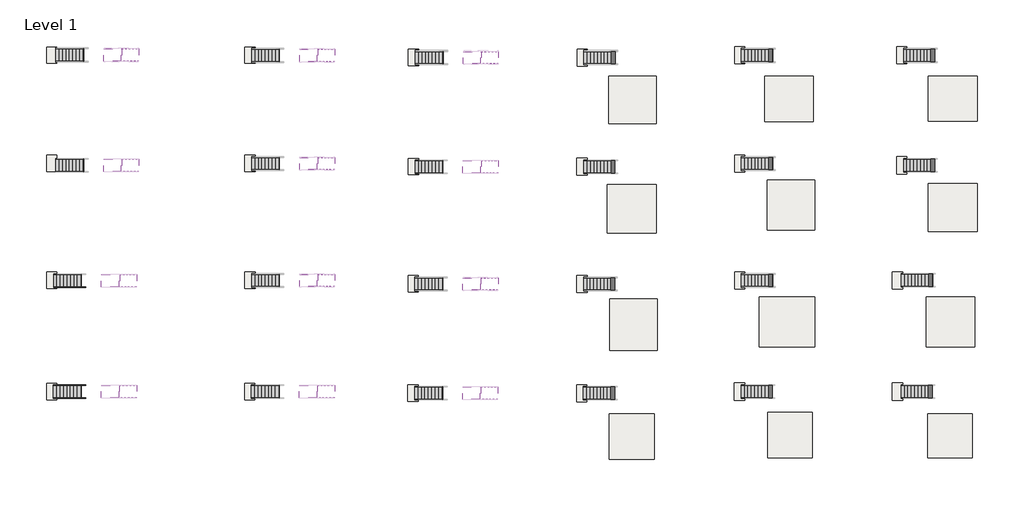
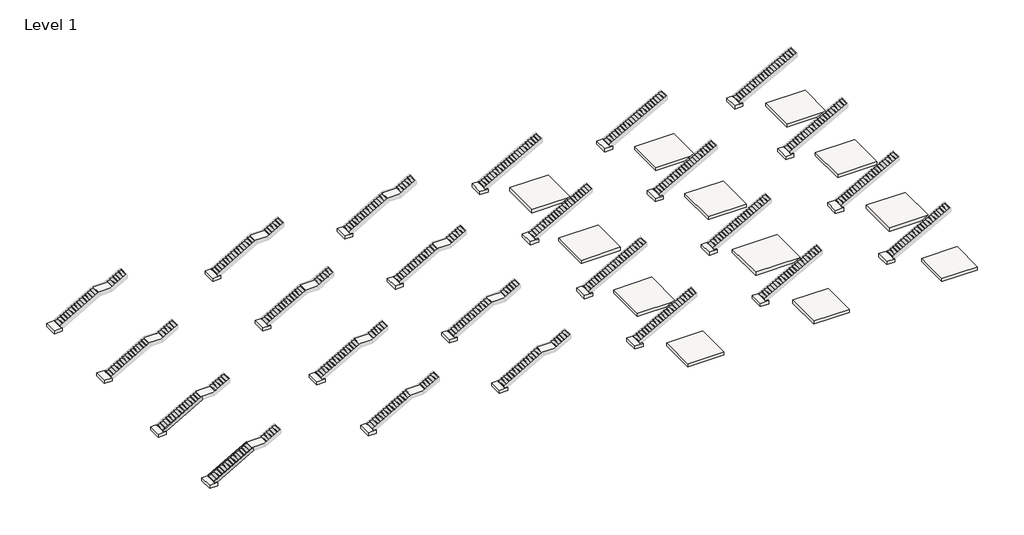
# One storey, part 1 of 2: 48 slabs, 36 stair flights, 3 members.
"""IFC4 building model written with IfcOpenShell, lengths in millimetres."""

from ifc_helpers import new_model, si_unit, frame, origin, place, context, project, spatial, polyline, outline, extrude, transform, mapped, element, save
from components import non_monolithic_landing_8f2b5169, non_monolithic_landing_047bd246, non_monolithic_landing_fefffbc4, non_monolithic_landing_64d1daa8, non_monolithic_landing_f9fca083, non_monolithic_landing_5d0e261f, non_monolithic_landing_c73b08fc, non_monolithic_landing_522a30ce, non_monolithic_landing_33fc1541, non_monolithic_landing_17ffbc2a, non_monolithic_landing_2f4b5426, non_monolithic_landing_0ca8307c, stair_flight_258a6cbc, stair_flight_0b0cad5c, stair_flight_0de24507, stair_flight_69a5bf32, stair_flight_a9538401, stair_flight_ac2a29c4, stair_flight_52e825a6, stair_flight_eed7713f, stair_flight_299978d5, stair_flight_8cc66eea, stair_flight_9f840bb6, stair_flight_50f921ca, stair_flight_f67c9514, stair_flight_5a4c5ca5, stair_flight_5c327054, stair_flight_eac4b940, stair_flight_e8b61742, stair_flight_4ada8186, stair_flight_5bed9c42, stair_flight_4736928c, stair_flight_f9da42aa, stair_flight_280036b4, stair_flight_be7faa67, stair_flight_3d462d87, stair_flight_6c6811b1, stair_flight_e9081b82, stair_flight_ee7a4110, stair_flight_c5fed0c8, stair_flight_9d38373e, stair_flight_499292b3, stair_flight_59090b68, stair_flight_a734e51d, stair_flight_6c13c02f, stair_flight_3877abb4, stair_flight_e5405b16, stair_flight_474d9439

model = new_model("IFC4")

# Units and contexts
model_context = context("Model", 3, world=origin())
ifc_project = project(units=[si_unit("LENGTHUNIT", "METRE", prefix="MILLI")], contexts=[model_context])

# Site, building, storey
site = spatial("IfcSite", under=ifc_project)
building = spatial("IfcBuilding", under=site)
storey = spatial("IfcBuildingStorey", under=building, Name="Level 1", Elevation=0.0)

# Members
placement = place(None, origin())
element("IfcMember", 1, at=placement, inside=storey, context=model_context, shape_type="SweptSolid", body=[
    extrude(outline(polyline([(179.7202068, -50859.3385422), (0.0, -50859.3385422), (0.0, -50559.5048637), (1923.1428571, -47194.0048637), (2227.9428571, -47274.9489042), (179.7202068, -50859.3385422)])), frame((0.0, 7552.722839, 0.0), z_axis=(0.0, 1.0, 0.0), x_axis=(0.0, 0.0, 1.0)), (0.0, 0.0, 1.0), 50.8),
])
element("IfcMember", 2, at=placement, inside=storey, context=model_context, shape_type="SweptSolid", body=[
    extrude(outline(polyline([(179.7202068, -50859.3385422), (0.0, -50859.3385422), (0.0, -50559.5048637), (1923.1428571, -47194.0048637), (2227.9428571, -47274.9489042), (179.7202068, -50859.3385422)])), frame((0.0, 6587.522839, 0.0), z_axis=(0.0, 1.0, 0.0), x_axis=(0.0, 0.0, 1.0)), (0.0, 0.0, 1.0), 50.8),
])
element("IfcMember", 3, at=placement, inside=storey, context=model_context, shape_type="SweptSolid", body=[
    extrude(outline(polyline([(179.7202068, -50845.3645607), (0.0, -50845.3645607), (0.0, -50545.5308822), (1923.1428571, -47180.0308822), (2227.9428571, -47260.9749226), (179.7202068, -50845.3645607)])), frame((0.0, 14829.4177722, 0.0), z_axis=(0.0, 1.0, 0.0), x_axis=(0.0, 0.0, 1.0)), (0.0, 0.0, 1.0), 50.8),
])

# Slabs
element("IfcSlab", 4, ObjectType="Generic - 12\"", at=placement, inside=storey, context=model_context, shape_type="SweptSolid", body=[
    extrude(outline(polyline([(-11221.1488677, 6331.3905722), (-11983.1488677, 6331.3905722), (-11983.1488677, 7602.3049722), (-11221.1488677, 7602.3049722), (-11221.1488677, 6331.3905722)])), frame((0.0, 0.0, -307.594), z_axis=(0.0, 0.0, 1.0), x_axis=(1.0, 0.0, 0.0)), (0.0, 0.0, 1.0), 307.594),
])
element("IfcSlab", 5, ObjectType="Generic - 12\"", at=placement, inside=storey, context=model_context, shape_type="SweptSolid", body=[
    extrude(outline(polyline([(-11207.1748862, 14460.2555053), (-11969.1748862, 14460.2555053), (-11969.1748862, 15731.1699053), (-11207.1748862, 15731.1699053), (-11207.1748862, 14460.2555053)])), frame((0.0, 0.0, -307.594), z_axis=(0.0, 0.0, 1.0), x_axis=(1.0, 0.0, 0.0)), (0.0, 0.0, 1.0), 307.594),
])
element("IfcSlab", 6, ObjectType="Generic - 12\"", at=placement, inside=storey, context=model_context, shape_type="SweptSolid", body=[
    extrude(outline(polyline([(-11193.2009046, 23184.7504385), (-11955.2009046, 23184.7504385), (-11955.2009046, 24455.6648385), (-11193.2009046, 24455.6648385), (-11193.2009046, 23184.7504385)])), frame((0.0, 0.0, -307.594), z_axis=(0.0, 0.0, 1.0), x_axis=(1.0, 0.0, 0.0)), (0.0, 0.0, 1.0), 307.594),
])
element("IfcSlab", 7, ObjectType="Generic - 12\"", at=placement, inside=storey, context=model_context, shape_type="SweptSolid", body=[
    extrude(outline(polyline([(-11179.2269231, 31299.6453717), (-11941.2269231, 31299.6453717), (-11941.2269231, 32570.5597717), (-11179.2269231, 32570.5597717), (-11179.2269231, 31299.6453717)])), frame((0.0, 0.0, -307.594), z_axis=(0.0, 0.0, 1.0), x_axis=(1.0, 0.0, 0.0)), (0.0, 0.0, 1.0), 307.594),
])
element("IfcSlab", 8, ObjectType="Generic - 12\"", at=placement, inside=storey, context=model_context, shape_type="SweptSolid", body=[
    extrude(outline(polyline([(513.6511323, 31491.3605722), (-248.3488677, 31491.3605722), (-248.3488677, 32762.2749722), (513.6511323, 32762.2749722), (513.6511323, 31491.3605722)])), frame((0.0, 0.0, -307.594), z_axis=(0.0, 0.0, 1.0), x_axis=(1.0, 0.0, 0.0)), (0.0, 0.0, 1.0), 307.594),
])
element("IfcSlab", 9, ObjectType="Generic - 12\"", at=placement, inside=storey, context=model_context, shape_type="SweptSolid", body=[
    extrude(outline(polyline([(12564.3038678, 31491.3605722), (11802.3038678, 31491.3605722), (11802.3038678, 32762.2749722), (12564.3038678, 32762.2749722), (12564.3038678, 31491.3605722)])), frame((0.0, 0.0, -307.594), z_axis=(0.0, 0.0, 1.0), x_axis=(1.0, 0.0, 0.0)), (0.0, 0.0, 1.0), 307.594),
])
element("IfcSlab", 10, ObjectType="Generic - 12\"", at=placement, inside=storey, context=model_context, shape_type="SweptSolid", body=[
    extrude(outline(polyline([(513.6511323, 23414.1605722), (-248.3488677, 23414.1605722), (-248.3488677, 24685.0749722), (513.6511323, 24685.0749722), (513.6511323, 23414.1605722)])), frame((0.0, 0.0, -307.594), z_axis=(0.0, 0.0, 1.0), x_axis=(1.0, 0.0, 0.0)), (0.0, 0.0, 1.0), 307.594),
])
element("IfcSlab", 11, ObjectType="Generic - 12\"", at=placement, inside=storey, context=model_context, shape_type="SweptSolid", body=[
    extrude(outline(polyline([(12564.3038678, 23286.3504385), (11802.3038678, 23286.3504385), (11802.3038678, 24557.2648385), (12564.3038678, 24557.2648385), (12564.3038678, 23286.3504385)])), frame((0.0, 0.0, -307.594), z_axis=(0.0, 0.0, 1.0), x_axis=(1.0, 0.0, 0.0)), (0.0, 0.0, 1.0), 307.594),
])
element("IfcSlab", 12, ObjectType="Generic - 12\"", at=placement, inside=storey, context=model_context, shape_type="SweptSolid", body=[
    extrude(outline(polyline([(513.6511323, 14727.3605722), (-248.3488677, 14727.3605722), (-248.3488677, 15998.2749722), (513.6511323, 15998.2749722), (513.6511323, 14727.3605722)])), frame((0.0, 0.0, -307.594), z_axis=(0.0, 0.0, 1.0), x_axis=(1.0, 0.0, 0.0)), (0.0, 0.0, 1.0), 307.594),
])
element("IfcSlab", 13, ObjectType="Generic - 12\"", at=placement, inside=storey, context=model_context, shape_type="SweptSolid", body=[
    extrude(outline(polyline([(12248.4511323, 14727.3605722), (11486.4511323, 14727.3605722), (11486.4511323, 15998.2749722), (12248.4511323, 15998.2749722), (12248.4511323, 14727.3605722)])), frame((0.0, 0.0, -307.594), z_axis=(0.0, 0.0, 1.0), x_axis=(1.0, 0.0, 0.0)), (0.0, 0.0, 1.0), 307.594),
])
element("IfcSlab", 14, ObjectType="Generic - 12\"", at=placement, inside=storey, context=model_context, shape_type="SweptSolid", body=[
    extrude(outline(polyline([(12234.4771507, 6460.065639), (11472.4771507, 6460.065639), (11472.4771507, 7730.980039), (12234.4771507, 7730.980039), (12234.4771507, 6460.065639)])), frame((0.0, 0.0, -307.594), z_axis=(0.0, 0.0, 1.0), x_axis=(1.0, 0.0, 0.0)), (0.0, 0.0, 1.0), 307.594),
])
element("IfcSlab", 15, ObjectType="Generic - 12\"", at=placement, inside=storey, context=model_context, shape_type="SweptSolid", body=[
    extrude(outline(polyline([(499.6771507, 6460.065639), (-262.3228493, 6460.065639), (-262.3228493, 7730.980039), (499.6771507, 7730.980039), (499.6771507, 6460.065639)])), frame((0.0, 0.0, -307.594), z_axis=(0.0, 0.0, 1.0), x_axis=(1.0, 0.0, 0.0)), (0.0, 0.0, 1.0), 307.594),
])
element("IfcSlab", 16, ObjectType="Generic - 12\"", at=placement, inside=storey, context=model_context, shape_type="SweptSolid", body=[
    extrude(outline(polyline([(17416.0630827, 2167.922839), (14120.2114578, 2167.922839), (14120.2114578, 5444.522839), (17416.0630827, 5444.522839), (17416.0630827, 2167.922839)])), frame((0.0, 0.0, -307.594), z_axis=(0.0, 0.0, 1.0), x_axis=(1.0, 0.0, 0.0)), (0.0, 0.0, 1.0), 307.594),
])
element("IfcSlab", 17, ObjectType="Generic - 12\"", at=placement, inside=storey, context=model_context, shape_type="SweptSolid", body=[
    extrude(outline(polyline([(5518.5443327, 2167.922839), (2216.5443327, 2167.922839), (2216.5443327, 5546.122839), (5518.5443327, 5546.122839), (5518.5443327, 2167.922839)])), frame((0.0, 0.0, -307.594), z_axis=(0.0, 0.0, 1.0), x_axis=(1.0, 0.0, 0.0)), (0.0, 0.0, 1.0), 307.594),
])
element("IfcSlab", 18, ObjectType="Generic - 12\"", at=placement, inside=storey, context=model_context, shape_type="SweptSolid", body=[
    extrude(outline(polyline([(-6204.6629358, 2053.2177722), (-9557.4629358, 2053.2177722), (-9557.4629358, 5431.4177722), (-6204.6629358, 5431.4177722), (-6204.6629358, 2053.2177722)])), frame((0.0, 0.0, -307.594), z_axis=(0.0, 0.0, 1.0), x_axis=(1.0, 0.0, 0.0)), (0.0, 0.0, 1.0), 307.594),
])
element("IfcSlab", 19, ObjectType="Generic - 12\"", at=placement, inside=storey, context=model_context, shape_type="SweptSolid", body=[
    extrude(outline(polyline([(-5994.0405791, 10168.1127053), (-9524.6405791, 10168.1127053), (-9524.6405791, 14003.5127053), (-5994.0405791, 14003.5127053), (-5994.0405791, 10168.1127053)])), frame((0.0, 0.0, -307.594), z_axis=(0.0, 0.0, 1.0), x_axis=(1.0, 0.0, 0.0)), (0.0, 0.0, 1.0), 307.594),
])
element("IfcSlab", 20, ObjectType="Generic - 12\"", at=placement, inside=storey, context=model_context, shape_type="SweptSolid", body=[
    extrude(outline(polyline([(-6062.6165976, 18892.6076385), (-9713.8665976, 18892.6076385), (-9713.8665976, 22499.4076385), (-6062.6165976, 22499.4076385), (-6062.6165976, 18892.6076385)])), frame((0.0, 0.0, -307.594), z_axis=(0.0, 0.0, 1.0), x_axis=(1.0, 0.0, 0.0)), (0.0, 0.0, 1.0), 307.594),
])
element("IfcSlab", 21, ObjectType="Generic - 12\"", at=placement, inside=storey, context=model_context, shape_type="SweptSolid", body=[
    extrude(outline(polyline([(5726.7854393, 19122.0177722), (2196.1854393, 19122.0177722), (2196.1854393, 22830.4177722), (5726.7854393, 22830.4177722), (5726.7854393, 19122.0177722)])), frame((0.0, 0.0, -307.594), z_axis=(0.0, 0.0, 1.0), x_axis=(1.0, 0.0, 0.0)), (0.0, 0.0, 1.0), 307.594),
])
element("IfcSlab", 22, ObjectType="Generic - 12\"", at=placement, inside=storey, context=model_context, shape_type="SweptSolid", body=[
    extrude(outline(polyline([(17802.8381748, 18994.2076385), (14145.2381748, 18994.2076385), (14145.2381748, 22575.6076385), (17802.8381748, 22575.6076385), (17802.8381748, 18994.2076385)])), frame((0.0, 0.0, -307.594), z_axis=(0.0, 0.0, 1.0), x_axis=(1.0, 0.0, 0.0)), (0.0, 0.0, 1.0), 307.594),
])
element("IfcSlab", 23, ObjectType="Generic - 12\"", at=placement, inside=storey, context=model_context, shape_type="SweptSolid", body=[
    extrude(outline(polyline([(5726.7854393, 10435.2177722), (1586.5854393, 10435.2177722), (1586.5854393, 14143.8193971), (5726.7854393, 14143.8193971), (5726.7854393, 10435.2177722)])), frame((0.0, 0.0, -307.594), z_axis=(0.0, 0.0, 1.0), x_axis=(1.0, 0.0, 0.0)), (0.0, 0.0, 1.0), 307.594),
])
element("IfcSlab", 24, ObjectType="Generic - 12\"", at=placement, inside=storey, context=model_context, shape_type="SweptSolid", body=[
    extrude(outline(polyline([(17613.9854393, 10409.8177722), (13981.7854393, 10409.8177722), (13981.7854393, 14118.2177722), (17613.9854393, 14118.2177722), (17613.9854393, 10409.8177722)])), frame((0.0, 0.0, -307.594), z_axis=(0.0, 0.0, 1.0), x_axis=(1.0, 0.0, 0.0)), (0.0, 0.0, 1.0), 307.594),
])
element("IfcSlab", 25, ObjectType="Generic - 12\"", at=placement, inside=storey, context=model_context, shape_type="SweptSolid", body=[
    extrude(outline(polyline([(-6048.642616, 27007.5025717), (-9598.292616, 27007.5025717), (-9598.292616, 30563.5025717), (-6048.642616, 30563.5025717), (-6048.642616, 27007.5025717)])), frame((0.0, 0.0, -307.594), z_axis=(0.0, 0.0, 1.0), x_axis=(1.0, 0.0, 0.0)), (0.0, 0.0, 1.0), 307.594),
])
element("IfcSlab", 26, ObjectType="Generic - 12\"", at=placement, inside=storey, context=model_context, shape_type="SweptSolid", body=[
    extrude(outline(polyline([(5602.9604393, 27173.8177722), (1992.9854393, 27173.8177722), (1992.9854393, 30563.5025717), (5602.9604393, 30563.5025717), (5602.9604393, 27173.8177722)])), frame((0.0, 0.0, -307.594), z_axis=(0.0, 0.0, 1.0), x_axis=(1.0, 0.0, 0.0)), (0.0, 0.0, 1.0), 307.594),
])
element("IfcSlab", 27, ObjectType="Generic - 12\"", at=placement, inside=storey, context=model_context, shape_type="SweptSolid", body=[
    extrude(outline(polyline([(17802.8381748, 27199.2177722), (14145.2381748, 27199.2177722), (14145.2381748, 30563.5025717), (17802.8381748, 30563.5025717), (17802.8381748, 27199.2177722)])), frame((0.0, 0.0, -307.594), z_axis=(0.0, 0.0, 1.0), x_axis=(1.0, 0.0, 0.0)), (0.0, 0.0, 1.0), 307.594),
])
element("IfcSlab", 28, ObjectType="Generic - 7 3/4\"", at=placement, inside=storey, context=model_context, shape_type="SweptSolid", body=[
    extrude(outline(polyline([(-23755.0013638, 6383.1049722), (-24517.0013638, 6383.1049722), (-24517.0013638, 7602.3049722), (-23755.0013638, 7602.3049722), (-23755.0013638, 6383.1049722)])), frame((0.0, 0.0, -296.7736), z_axis=(0.0, 0.0, 1.0), x_axis=(1.0, 0.0, 0.0)), (0.0, 0.0, 1.0), 296.7736),
])
element("IfcSlab", 29, ObjectType="Generic - 7 3/4\"", at=placement, inside=storey, context=model_context, shape_type="SweptSolid", body=[
    extrude(outline(polyline([(-23741.0273822, 14497.9999053), (-24503.0273822, 14497.9999053), (-24503.0273822, 15717.1999053), (-23741.0273822, 15717.1999053), (-23741.0273822, 14497.9999053)])), frame((0.0, 0.0, -296.7736), z_axis=(0.0, 0.0, 1.0), x_axis=(1.0, 0.0, 0.0)), (0.0, 0.0, 1.0), 296.7736),
])
element("IfcSlab", 30, ObjectType="Generic - 7 3/4\"", at=placement, inside=storey, context=model_context, shape_type="SweptSolid", body=[
    extrude(outline(polyline([(-23727.0534007, 23222.4948385), (-24489.0534007, 23222.4948385), (-24489.0534007, 24441.6948385), (-23727.0534007, 24441.6948385), (-23727.0534007, 23222.4948385)])), frame((0.0, 0.0, -296.7736), z_axis=(0.0, 0.0, 1.0), x_axis=(1.0, 0.0, 0.0)), (0.0, 0.0, 1.0), 296.7736),
])
element("IfcSlab", 31, ObjectType="Generic - 7 3/4\"", at=placement, inside=storey, context=model_context, shape_type="SweptSolid", body=[
    extrude(outline(polyline([(-23713.0794192, 31337.3897717), (-24475.0794192, 31337.3897717), (-24475.0794192, 32556.5897717), (-23713.0794192, 32556.5897717), (-23713.0794192, 31337.3897717)])), frame((0.0, 0.0, -296.7736), z_axis=(0.0, 0.0, 1.0), x_axis=(1.0, 0.0, 0.0)), (0.0, 0.0, 1.0), 296.7736),
])
element("IfcSlab", 32, ObjectType="Generic - 7 3/4\"", at=placement, inside=storey, context=model_context, shape_type="SweptSolid", body=[
    extrude(outline(polyline([(-35885.6561362, 6497.810039), (-36647.6561362, 6497.810039), (-36647.6561362, 7717.010039), (-35885.6561362, 7717.010039), (-35885.6561362, 6497.810039)])), frame((0.0, 0.0, -296.7736), z_axis=(0.0, 0.0, 1.0), x_axis=(1.0, 0.0, 0.0)), (0.0, 0.0, 1.0), 296.7736),
])
element("IfcSlab", 33, ObjectType="Generic - 7 3/4\"", at=placement, inside=storey, context=model_context, shape_type="SweptSolid", body=[
    extrude(outline(polyline([(-35871.6821546, 14765.1049722), (-36633.6821546, 14765.1049722), (-36633.6821546, 15984.3049722), (-35871.6821546, 15984.3049722), (-35871.6821546, 14765.1049722)])), frame((0.0, 0.0, -296.7736), z_axis=(0.0, 0.0, 1.0), x_axis=(1.0, 0.0, 0.0)), (0.0, 0.0, 1.0), 296.7736),
])
element("IfcSlab", 34, ObjectType="Generic - 7 3/4\"", at=placement, inside=storey, context=model_context, shape_type="SweptSolid", body=[
    extrude(outline(polyline([(-35871.6821546, 23451.9049722), (-36633.6821546, 23451.9049722), (-36633.6821546, 24671.1049722), (-35871.6821546, 24671.1049722), (-35871.6821546, 23451.9049722)])), frame((0.0, 0.0, -296.7736), z_axis=(0.0, 0.0, 1.0), x_axis=(1.0, 0.0, 0.0)), (0.0, 0.0, 1.0), 296.7736),
])
element("IfcSlab", 35, ObjectType="Generic - 7 3/4\"", at=placement, inside=storey, context=model_context, shape_type="SweptSolid", body=[
    extrude(outline(polyline([(-35871.6821546, 31503.7049722), (-36633.6821546, 31503.7049722), (-36633.6821546, 32722.9049722), (-35871.6821546, 32722.9049722), (-35871.6821546, 31503.7049722)])), frame((0.0, 0.0, -296.7736), z_axis=(0.0, 0.0, 1.0), x_axis=(1.0, 0.0, 0.0)), (0.0, 0.0, 1.0), 296.7736),
])
element("IfcSlab", 36, ObjectType="Generic - 7 3/4\"", at=placement, inside=storey, context=model_context, shape_type="SweptSolid", body=[
    extrude(outline(polyline([(-50605.3493268, 6497.810039), (-51367.3493268, 6497.810039), (-51367.3493268, 7717.010039), (-50605.3493268, 7717.010039), (-50605.3493268, 6497.810039)])), frame((0.0, 0.0, -296.7736), z_axis=(0.0, 0.0, 1.0), x_axis=(1.0, 0.0, 0.0)), (0.0, 0.0, 1.0), 296.7736),
])
element("IfcSlab", 37, ObjectType="Generic - 7 3/4\"", at=placement, inside=storey, context=model_context, shape_type="SweptSolid", body=[
    extrude(outline(polyline([(-50591.3753453, 14765.1049722), (-51353.3753453, 14765.1049722), (-51353.3753453, 15984.3049722), (-50591.3753453, 15984.3049722), (-50591.3753453, 14765.1049722)])), frame((0.0, 0.0, -296.7736), z_axis=(0.0, 0.0, 1.0), x_axis=(1.0, 0.0, 0.0)), (0.0, 0.0, 1.0), 296.7736),
])
element("IfcSlab", 38, ObjectType="Generic - 7 3/4\"", at=placement, inside=storey, context=model_context, shape_type="SweptSolid", body=[
    extrude(outline(polyline([(-50591.3753453, 23451.9049722), (-51353.3753453, 23451.9049722), (-51353.3753453, 24671.1049722), (-50591.3753453, 24671.1049722), (-50591.3753453, 23451.9049722)])), frame((0.0, 0.0, -296.7736), z_axis=(0.0, 0.0, 1.0), x_axis=(1.0, 0.0, 0.0)), (0.0, 0.0, 1.0), 296.7736),
])
element("IfcSlab", 39, ObjectType="Generic - 7 3/4\"", at=placement, inside=storey, context=model_context, shape_type="SweptSolid", body=[
    extrude(outline(polyline([(-50591.3753453, 31503.7049722), (-51353.3753453, 31503.7049722), (-51353.3753453, 32722.9049722), (-50591.3753453, 32722.9049722), (-50591.3753453, 31503.7049722)])), frame((0.0, 0.0, -296.7736), z_axis=(0.0, 0.0, 1.0), x_axis=(1.0, 0.0, 0.0)), (0.0, 0.0, 1.0), 296.7736),
])
non_monolithic_landing_shape = non_monolithic_landing_8f2b5169(model_context)
element("IfcSlab", 40, ObjectType="Non-Monolithic Landing", at=placement, inside=storey, context=model_context, shape_type="MappedRepresentation", body=[
    mapped(non_monolithic_landing_shape, transform((0.0, 0.0, 0.0), x_axis=(1.0, 0.0, 0.0), y_axis=(0.0, 1.0, 0.0), z_axis=(0.0, 0.0, 1.0))),
])
non_monolithic_landing_2_shape = non_monolithic_landing_047bd246(model_context)
element("IfcSlab", 41, ObjectType="Non-Monolithic Landing", at=placement, inside=storey, context=model_context, shape_type="MappedRepresentation", body=[
    mapped(non_monolithic_landing_2_shape, transform((0.0, 0.0, 0.0), x_axis=(1.0, 0.0, 0.0), y_axis=(0.0, 1.0, 0.0), z_axis=(0.0, 0.0, 1.0))),
])
non_monolithic_landing_3_shape = non_monolithic_landing_fefffbc4(model_context)
element("IfcSlab", 42, ObjectType="Non-Monolithic Landing", at=placement, inside=storey, context=model_context, shape_type="MappedRepresentation", body=[
    mapped(non_monolithic_landing_3_shape, transform((0.0, 0.0, 0.0), x_axis=(1.0, 0.0, 0.0), y_axis=(0.0, 1.0, 0.0), z_axis=(0.0, 0.0, 1.0))),
])
non_monolithic_landing_4_shape = non_monolithic_landing_64d1daa8(model_context)
element("IfcSlab", 43, ObjectType="Non-Monolithic Landing", at=placement, inside=storey, context=model_context, shape_type="MappedRepresentation", body=[
    mapped(non_monolithic_landing_4_shape, transform((0.0, 0.0, 0.0), x_axis=(1.0, 0.0, 0.0), y_axis=(0.0, 1.0, 0.0), z_axis=(0.0, 0.0, 1.0))),
])
non_monolithic_landing_5_shape = non_monolithic_landing_f9fca083(model_context)
element("IfcSlab", 44, ObjectType="Non-Monolithic Landing", at=placement, inside=storey, context=model_context, shape_type="MappedRepresentation", body=[
    mapped(non_monolithic_landing_5_shape, transform((0.0, 0.0, 0.0), x_axis=(1.0, 0.0, 0.0), y_axis=(0.0, 1.0, 0.0), z_axis=(0.0, 0.0, 1.0))),
])
non_monolithic_landing_6_shape = non_monolithic_landing_5d0e261f(model_context)
element("IfcSlab", 45, ObjectType="Non-Monolithic Landing", at=placement, inside=storey, context=model_context, shape_type="MappedRepresentation", body=[
    mapped(non_monolithic_landing_6_shape, transform((0.0, 0.0, 0.0), x_axis=(1.0, 0.0, 0.0), y_axis=(0.0, 1.0, 0.0), z_axis=(0.0, 0.0, 1.0))),
])
non_monolithic_landing_7_shape = non_monolithic_landing_c73b08fc(model_context)
element("IfcSlab", 46, ObjectType="Non-Monolithic Landing", at=placement, inside=storey, context=model_context, shape_type="MappedRepresentation", body=[
    mapped(non_monolithic_landing_7_shape, transform((0.0, 0.0, 0.0), x_axis=(1.0, 0.0, 0.0), y_axis=(0.0, 1.0, 0.0), z_axis=(0.0, 0.0, 1.0))),
])
non_monolithic_landing_8_shape = non_monolithic_landing_522a30ce(model_context)
element("IfcSlab", 47, ObjectType="Non-Monolithic Landing", at=placement, inside=storey, context=model_context, shape_type="MappedRepresentation", body=[
    mapped(non_monolithic_landing_8_shape, transform((0.0, 0.0, 0.0), x_axis=(1.0, 0.0, 0.0), y_axis=(0.0, 1.0, 0.0), z_axis=(0.0, 0.0, 1.0))),
])
non_monolithic_landing_9_shape = non_monolithic_landing_33fc1541(model_context)
element("IfcSlab", 48, ObjectType="Non-Monolithic Landing", at=placement, inside=storey, context=model_context, shape_type="MappedRepresentation", body=[
    mapped(non_monolithic_landing_9_shape, transform((0.0, 0.0, 0.0), x_axis=(1.0, 0.0, 0.0), y_axis=(0.0, 1.0, 0.0), z_axis=(0.0, 0.0, 1.0))),
])
non_monolithic_landing_10_shape = non_monolithic_landing_17ffbc2a(model_context)
element("IfcSlab", 49, ObjectType="Non-Monolithic Landing", at=placement, inside=storey, context=model_context, shape_type="MappedRepresentation", body=[
    mapped(non_monolithic_landing_10_shape, transform((0.0, 0.0, 0.0), x_axis=(1.0, 0.0, 0.0), y_axis=(0.0, 1.0, 0.0), z_axis=(0.0, 0.0, 1.0))),
])
non_monolithic_landing_11_shape = non_monolithic_landing_2f4b5426(model_context)
element("IfcSlab", 50, ObjectType="Non-Monolithic Landing", at=placement, inside=storey, context=model_context, shape_type="MappedRepresentation", body=[
    mapped(non_monolithic_landing_11_shape, transform((0.0, 0.0, 0.0), x_axis=(1.0, 0.0, 0.0), y_axis=(0.0, 1.0, 0.0), z_axis=(0.0, 0.0, 1.0))),
])
non_monolithic_landing_12_shape = non_monolithic_landing_0ca8307c(model_context)
element("IfcSlab", 51, ObjectType="Non-Monolithic Landing", at=placement, inside=storey, context=model_context, shape_type="MappedRepresentation", body=[
    mapped(non_monolithic_landing_12_shape, transform((0.0, 0.0, 0.0), x_axis=(1.0, 0.0, 0.0), y_axis=(0.0, 1.0, 0.0), z_axis=(0.0, 0.0, 1.0))),
])

# Stair flights
stair_flight_shape = stair_flight_258a6cbc(model_context)
element("IfcStairFlight", 52, ObjectType="Wood Steps with 2\" Tread 1\" Nosing 1/4\" Riser", at=placement, inside=storey, context=model_context, shape_type="MappedRepresentation", body=[
    mapped(stair_flight_shape, transform((0.0, 0.0, 0.0), x_axis=(1.0, 0.0, 0.0), y_axis=(0.0, 1.0, 0.0), z_axis=(0.0, 0.0, 1.0))),
])
stair_flight_2_shape = stair_flight_0b0cad5c(model_context)
element("IfcStairFlight", 53, ObjectType="Wood Steps with 2\" Tread 1\" Nosing 1/4\" Riser", at=placement, inside=storey, context=model_context, shape_type="MappedRepresentation", body=[
    mapped(stair_flight_2_shape, transform((0.0, 0.0, 0.0), x_axis=(1.0, 0.0, 0.0), y_axis=(0.0, 1.0, 0.0), z_axis=(0.0, 0.0, 1.0))),
])
stair_flight_3_shape = stair_flight_0de24507(model_context)
element("IfcStairFlight", 54, ObjectType="Wood Steps with 2\" Tread 1\" Nosing 1/4\" Riser", at=placement, inside=storey, context=model_context, shape_type="MappedRepresentation", body=[
    mapped(stair_flight_3_shape, transform((0.0, 0.0, 0.0), x_axis=(1.0, 0.0, 0.0), y_axis=(0.0, 1.0, 0.0), z_axis=(0.0, 0.0, 1.0))),
])
stair_flight_4_shape = stair_flight_69a5bf32(model_context)
element("IfcStairFlight", 55, ObjectType="Wood Steps with 2\" Tread 1\" Nosing 1/4\" Riser", at=placement, inside=storey, context=model_context, shape_type="MappedRepresentation", body=[
    mapped(stair_flight_4_shape, transform((0.0, 0.0, 0.0), x_axis=(1.0, 0.0, 0.0), y_axis=(0.0, 1.0, 0.0), z_axis=(0.0, 0.0, 1.0))),
])
stair_flight_5_shape = stair_flight_a9538401(model_context)
element("IfcStairFlight", 56, ObjectType="Wood Steps with 2\" Tread 1\" Nosing 1/4\" Riser", at=placement, inside=storey, context=model_context, shape_type="MappedRepresentation", body=[
    mapped(stair_flight_5_shape, transform((0.0, 0.0, 0.0), x_axis=(1.0, 0.0, 0.0), y_axis=(0.0, 1.0, 0.0), z_axis=(0.0, 0.0, 1.0))),
])
stair_flight_6_shape = stair_flight_ac2a29c4(model_context)
element("IfcStairFlight", 57, ObjectType="Wood Steps with 2\" Tread 1\" Nosing 1/4\" Riser", at=placement, inside=storey, context=model_context, shape_type="MappedRepresentation", body=[
    mapped(stair_flight_6_shape, transform((0.0, 0.0, 0.0), x_axis=(1.0, 0.0, 0.0), y_axis=(0.0, 1.0, 0.0), z_axis=(0.0, 0.0, 1.0))),
])
stair_flight_7_shape = stair_flight_52e825a6(model_context)
element("IfcStairFlight", 58, ObjectType="Wood Steps with 2\" Tread 1\" Nosing 1/4\" Riser", at=placement, inside=storey, context=model_context, shape_type="MappedRepresentation", body=[
    mapped(stair_flight_7_shape, transform((0.0, 0.0, 0.0), x_axis=(1.0, 0.0, 0.0), y_axis=(0.0, 1.0, 0.0), z_axis=(0.0, 0.0, 1.0))),
])
stair_flight_8_shape = stair_flight_eed7713f(model_context)
element("IfcStairFlight", 59, ObjectType="Wood Steps with 2\" Tread 1\" Nosing 1/4\" Riser", at=placement, inside=storey, context=model_context, shape_type="MappedRepresentation", body=[
    mapped(stair_flight_8_shape, transform((0.0, 0.0, 0.0), x_axis=(1.0, 0.0, 0.0), y_axis=(0.0, 1.0, 0.0), z_axis=(0.0, 0.0, 1.0))),
])
stair_flight_9_shape = stair_flight_299978d5(model_context)
element("IfcStairFlight", 60, ObjectType="Wood Steps with 2\" Tread 1\" Nosing 1/4\" Riser", at=placement, inside=storey, context=model_context, shape_type="MappedRepresentation", body=[
    mapped(stair_flight_9_shape, transform((0.0, 0.0, 0.0), x_axis=(1.0, 0.0, 0.0), y_axis=(0.0, 1.0, 0.0), z_axis=(0.0, 0.0, 1.0))),
])
stair_flight_10_shape = stair_flight_8cc66eea(model_context)
element("IfcStairFlight", 61, ObjectType="Wood Steps with 2\" Tread 1\" Nosing 1/4\" Riser", at=placement, inside=storey, context=model_context, shape_type="MappedRepresentation", body=[
    mapped(stair_flight_10_shape, transform((0.0, 0.0, 0.0), x_axis=(1.0, 0.0, 0.0), y_axis=(0.0, 1.0, 0.0), z_axis=(0.0, 0.0, 1.0))),
])
stair_flight_11_shape = stair_flight_9f840bb6(model_context)
element("IfcStairFlight", 62, ObjectType="Wood Steps with 2\" Tread 1\" Nosing 1/4\" Riser", at=placement, inside=storey, context=model_context, shape_type="MappedRepresentation", body=[
    mapped(stair_flight_11_shape, transform((0.0, 0.0, 0.0), x_axis=(1.0, 0.0, 0.0), y_axis=(0.0, 1.0, 0.0), z_axis=(0.0, 0.0, 1.0))),
])
stair_flight_12_shape = stair_flight_50f921ca(model_context)
element("IfcStairFlight", 63, ObjectType="Wood Steps with 2\" Tread 1\" Nosing 1/4\" Riser", at=placement, inside=storey, context=model_context, shape_type="MappedRepresentation", body=[
    mapped(stair_flight_12_shape, transform((0.0, 0.0, 0.0), x_axis=(1.0, 0.0, 0.0), y_axis=(0.0, 1.0, 0.0), z_axis=(0.0, 0.0, 1.0))),
])
stair_flight_13_shape = stair_flight_f67c9514(model_context)
element("IfcStairFlight", 64, ObjectType="Wood Steps with 2\" Tread 1\" Nosing 1/4\" Riser", at=placement, inside=storey, context=model_context, shape_type="MappedRepresentation", body=[
    mapped(stair_flight_13_shape, transform((0.0, 0.0, 0.0), x_axis=(1.0, 0.0, 0.0), y_axis=(0.0, 1.0, 0.0), z_axis=(0.0, 0.0, 1.0))),
])
stair_flight_14_shape = stair_flight_5a4c5ca5(model_context)
element("IfcStairFlight", 65, ObjectType="Wood Steps with 2\" Tread 1\" Nosing 1/4\" Riser", at=placement, inside=storey, context=model_context, shape_type="MappedRepresentation", body=[
    mapped(stair_flight_14_shape, transform((0.0, 0.0, 0.0), x_axis=(1.0, 0.0, 0.0), y_axis=(0.0, 1.0, 0.0), z_axis=(0.0, 0.0, 1.0))),
])
stair_flight_15_shape = stair_flight_5c327054(model_context)
element("IfcStairFlight", 66, ObjectType="Wood Steps with 2\" Tread 1\" Nosing 1/4\" Riser", at=placement, inside=storey, context=model_context, shape_type="MappedRepresentation", body=[
    mapped(stair_flight_15_shape, transform((0.0, 0.0, 0.0), x_axis=(1.0, 0.0, 0.0), y_axis=(0.0, 1.0, 0.0), z_axis=(0.0, 0.0, 1.0))),
])
stair_flight_16_shape = stair_flight_eac4b940(model_context)
element("IfcStairFlight", 67, ObjectType="Wood Steps with 2\" Tread 1\" Nosing 1/4\" Riser", at=placement, inside=storey, context=model_context, shape_type="MappedRepresentation", body=[
    mapped(stair_flight_16_shape, transform((0.0, 0.0, 0.0), x_axis=(1.0, 0.0, 0.0), y_axis=(0.0, 1.0, 0.0), z_axis=(0.0, 0.0, 1.0))),
])
stair_flight_17_shape = stair_flight_e8b61742(model_context)
element("IfcStairFlight", 68, ObjectType="Wood Steps with 2\" Tread 1\" Nosing 1/4\" Riser", at=placement, inside=storey, context=model_context, shape_type="MappedRepresentation", body=[
    mapped(stair_flight_17_shape, transform((0.0, 0.0, 0.0), x_axis=(1.0, 0.0, 0.0), y_axis=(0.0, 1.0, 0.0), z_axis=(0.0, 0.0, 1.0))),
])
stair_flight_18_shape = stair_flight_4ada8186(model_context)
element("IfcStairFlight", 69, ObjectType="Wood Steps with 2\" Tread 1\" Nosing 1/4\" Riser", at=placement, inside=storey, context=model_context, shape_type="MappedRepresentation", body=[
    mapped(stair_flight_18_shape, transform((0.0, 0.0, 0.0), x_axis=(1.0, 0.0, 0.0), y_axis=(0.0, 1.0, 0.0), z_axis=(0.0, 0.0, 1.0))),
])
stair_flight_19_shape = stair_flight_5bed9c42(model_context)
element("IfcStairFlight", 70, ObjectType="Wood Steps with 2\" Tread 1\" Nosing 1/4\" Riser", at=placement, inside=storey, context=model_context, shape_type="MappedRepresentation", body=[
    mapped(stair_flight_19_shape, transform((0.0, 0.0, 0.0), x_axis=(1.0, 0.0, 0.0), y_axis=(0.0, 1.0, 0.0), z_axis=(0.0, 0.0, 1.0))),
])
stair_flight_20_shape = stair_flight_4736928c(model_context)
element("IfcStairFlight", 71, ObjectType="Wood Steps with 2\" Tread 1\" Nosing 1/4\" Riser", at=placement, inside=storey, context=model_context, shape_type="MappedRepresentation", body=[
    mapped(stair_flight_20_shape, transform((0.0, 0.0, 0.0), x_axis=(1.0, 0.0, 0.0), y_axis=(0.0, 1.0, 0.0), z_axis=(0.0, 0.0, 1.0))),
])
stair_flight_21_shape = stair_flight_f9da42aa(model_context)
element("IfcStairFlight", 72, ObjectType="Wood Steps with 2\" Tread 1\" Nosing 1/4\" Riser", at=placement, inside=storey, context=model_context, shape_type="MappedRepresentation", body=[
    mapped(stair_flight_21_shape, transform((0.0, 0.0, 0.0), x_axis=(1.0, 0.0, 0.0), y_axis=(0.0, 1.0, 0.0), z_axis=(0.0, 0.0, 1.0))),
])
stair_flight_22_shape = stair_flight_280036b4(model_context)
element("IfcStairFlight", 73, ObjectType="Wood Steps with 2\" Tread 1\" Nosing 1/4\" Riser", at=placement, inside=storey, context=model_context, shape_type="MappedRepresentation", body=[
    mapped(stair_flight_22_shape, transform((0.0, 0.0, 0.0), x_axis=(1.0, 0.0, 0.0), y_axis=(0.0, 1.0, 0.0), z_axis=(0.0, 0.0, 1.0))),
])
stair_flight_23_shape = stair_flight_be7faa67(model_context)
element("IfcStairFlight", 74, ObjectType="Wood Steps with 2\" Tread 1\" Nosing 1/4\" Riser", at=placement, inside=storey, context=model_context, shape_type="MappedRepresentation", body=[
    mapped(stair_flight_23_shape, transform((0.0, 0.0, 0.0), x_axis=(1.0, 0.0, 0.0), y_axis=(0.0, 1.0, 0.0), z_axis=(0.0, 0.0, 1.0))),
])
stair_flight_24_shape = stair_flight_3d462d87(model_context)
element("IfcStairFlight", 75, ObjectType="Wood Steps with 2\" Tread 1\" Nosing 1/4\" Riser", at=placement, inside=storey, context=model_context, shape_type="MappedRepresentation", body=[
    mapped(stair_flight_24_shape, transform((0.0, 0.0, 0.0), x_axis=(1.0, 0.0, 0.0), y_axis=(0.0, 1.0, 0.0), z_axis=(0.0, 0.0, 1.0))),
])
stair_flight_25_shape = stair_flight_6c6811b1(model_context)
element("IfcStairFlight", 76, ObjectType="Wood Steps with 2\" Tread 1\" Nosing 1/4\" Riser", at=placement, inside=storey, context=model_context, shape_type="MappedRepresentation", body=[
    mapped(stair_flight_25_shape, transform((0.0, 0.0, 0.0), x_axis=(1.0, 0.0, 0.0), y_axis=(0.0, 1.0, 0.0), z_axis=(0.0, 0.0, 1.0))),
])
stair_flight_26_shape = stair_flight_e9081b82(model_context)
element("IfcStairFlight", 77, ObjectType="Wood Steps with 2\" Tread 1\" Nosing 1/4\" Riser", at=placement, inside=storey, context=model_context, shape_type="MappedRepresentation", body=[
    mapped(stair_flight_26_shape, transform((0.0, 0.0, 0.0), x_axis=(1.0, 0.0, 0.0), y_axis=(0.0, 1.0, 0.0), z_axis=(0.0, 0.0, 1.0))),
])
stair_flight_27_shape = stair_flight_ee7a4110(model_context)
element("IfcStairFlight", 78, ObjectType="Wood Steps with 2\" Tread 1\" Nosing 1/4\" Riser", at=placement, inside=storey, context=model_context, shape_type="MappedRepresentation", body=[
    mapped(stair_flight_27_shape, transform((0.0, 0.0, 0.0), x_axis=(1.0, 0.0, 0.0), y_axis=(0.0, 1.0, 0.0), z_axis=(0.0, 0.0, 1.0))),
])
stair_flight_28_shape = stair_flight_c5fed0c8(model_context)
element("IfcStairFlight", 79, ObjectType="Wood Steps with 2\" Tread 1\" Nosing 1/4\" Riser", at=placement, inside=storey, context=model_context, shape_type="MappedRepresentation", body=[
    mapped(stair_flight_28_shape, transform((0.0, 0.0, 0.0), x_axis=(1.0, 0.0, 0.0), y_axis=(0.0, 1.0, 0.0), z_axis=(0.0, 0.0, 1.0))),
])
stair_flight_29_shape = stair_flight_9d38373e(model_context)
element("IfcStairFlight", 80, ObjectType="Wood Steps with 2\" Tread 1\" Nosing 1/4\" Riser", at=placement, inside=storey, context=model_context, shape_type="MappedRepresentation", body=[
    mapped(stair_flight_29_shape, transform((0.0, 0.0, 0.0), x_axis=(1.0, 0.0, 0.0), y_axis=(0.0, 1.0, 0.0), z_axis=(0.0, 0.0, 1.0))),
])
stair_flight_30_shape = stair_flight_499292b3(model_context)
element("IfcStairFlight", 81, ObjectType="Wood Steps with 2\" Tread 1\" Nosing 1/4\" Riser", at=placement, inside=storey, context=model_context, shape_type="MappedRepresentation", body=[
    mapped(stair_flight_30_shape, transform((0.0, 0.0, 0.0), x_axis=(1.0, 0.0, 0.0), y_axis=(0.0, 1.0, 0.0), z_axis=(0.0, 0.0, 1.0))),
])
stair_flight_31_shape = stair_flight_59090b68(model_context)
element("IfcStairFlight", 82, ObjectType="Wood Steps with 2\" Tread 1\" Nosing 1/4\" Riser", at=placement, inside=storey, context=model_context, shape_type="MappedRepresentation", body=[
    mapped(stair_flight_31_shape, transform((0.0, 0.0, 0.0), x_axis=(1.0, 0.0, 0.0), y_axis=(0.0, 1.0, 0.0), z_axis=(0.0, 0.0, 1.0))),
])
stair_flight_32_shape = stair_flight_a734e51d(model_context)
element("IfcStairFlight", 83, ObjectType="Wood Steps with 2\" Tread 1\" Nosing 1/4\" Riser", at=placement, inside=storey, context=model_context, shape_type="MappedRepresentation", body=[
    mapped(stair_flight_32_shape, transform((0.0, 0.0, 0.0), x_axis=(1.0, 0.0, 0.0), y_axis=(0.0, 1.0, 0.0), z_axis=(0.0, 0.0, 1.0))),
])
stair_flight_33_shape = stair_flight_6c13c02f(model_context)
element("IfcStairFlight", 84, ObjectType="Wood Steps with 2\" Tread 1\" Nosing 1/4\" Riser", at=placement, inside=storey, context=model_context, shape_type="MappedRepresentation", body=[
    mapped(stair_flight_33_shape, transform((0.0, 0.0, 0.0), x_axis=(1.0, 0.0, 0.0), y_axis=(0.0, 1.0, 0.0), z_axis=(0.0, 0.0, 1.0))),
])
stair_flight_34_shape = stair_flight_3877abb4(model_context)
element("IfcStairFlight", 85, ObjectType="Wood Steps with 2\" Tread 1\" Nosing 1/4\" Riser", at=placement, inside=storey, context=model_context, shape_type="MappedRepresentation", body=[
    mapped(stair_flight_34_shape, transform((0.0, 0.0, 0.0), x_axis=(1.0, 0.0, 0.0), y_axis=(0.0, 1.0, 0.0), z_axis=(0.0, 0.0, 1.0))),
])
stair_flight_35_shape = stair_flight_e5405b16(model_context)
element("IfcStairFlight", 86, ObjectType="Wood Steps with 2\" Tread 1\" Nosing 1/4\" Riser", at=placement, inside=storey, context=model_context, shape_type="MappedRepresentation", body=[
    mapped(stair_flight_35_shape, transform((0.0, 0.0, 0.0), x_axis=(1.0, 0.0, 0.0), y_axis=(0.0, 1.0, 0.0), z_axis=(0.0, 0.0, 1.0))),
])
stair_flight_36_shape = stair_flight_474d9439(model_context)
element("IfcStairFlight", 87, ObjectType="Wood Steps with 2\" Tread 1\" Nosing 1/4\" Riser", at=placement, inside=storey, context=model_context, shape_type="MappedRepresentation", body=[
    mapped(stair_flight_36_shape, transform((0.0, 0.0, 0.0), x_axis=(1.0, 0.0, 0.0), y_axis=(0.0, 1.0, 0.0), z_axis=(0.0, 0.0, 1.0))),
])

save(model, "model.ifc")
